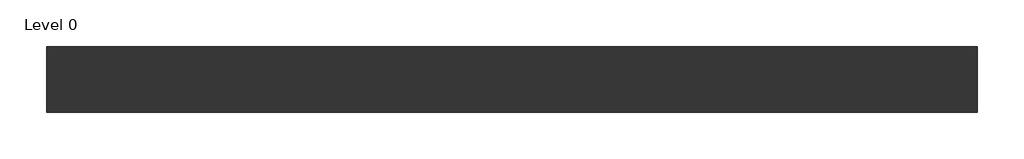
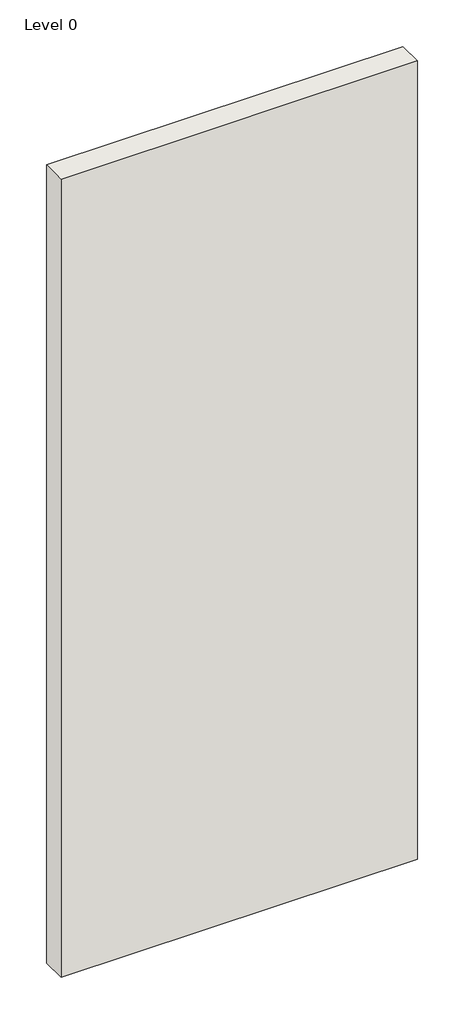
# One storey: 1 wall.
"""IFC4 building model written with IfcOpenShell, lengths in millimetres."""

from ifc_helpers import new_model, si_unit, origin, origin_with_axes, place, context, project, spatial, polyline, outline, extrude, element, save

model = new_model("IFC4")

# Units and contexts
model_context = context("Model", 3, world=origin())
ifc_project = project(units=[si_unit("LENGTHUNIT", "METRE", prefix="MILLI")], contexts=[model_context])

# Site, building, storey
site = spatial("IfcSite", under=ifc_project)
building = spatial("IfcBuilding", under=site)
storey = spatial("IfcBuildingStorey", under=building, Name="Level 0", Elevation=0.0)

# Wall
placement = place(None, origin())
element("IfcWall", 1, ObjectType="A226002 - GypWall CLASSIC", at=placement, inside=storey, context=model_context, shape_type="SweptSolid", body=[
    extrude(outline(polyline([(2116.0807354, 488.2205641), (-883.9192646, 488.2205641), (-883.9192646, 699.2205641), (2116.0807354, 699.2205641), (2116.0807354, 488.2205641)])), origin_with_axes(), (0.0, 0.0, 1.0), 7100.0),
])

save(model, "model.ifc")
